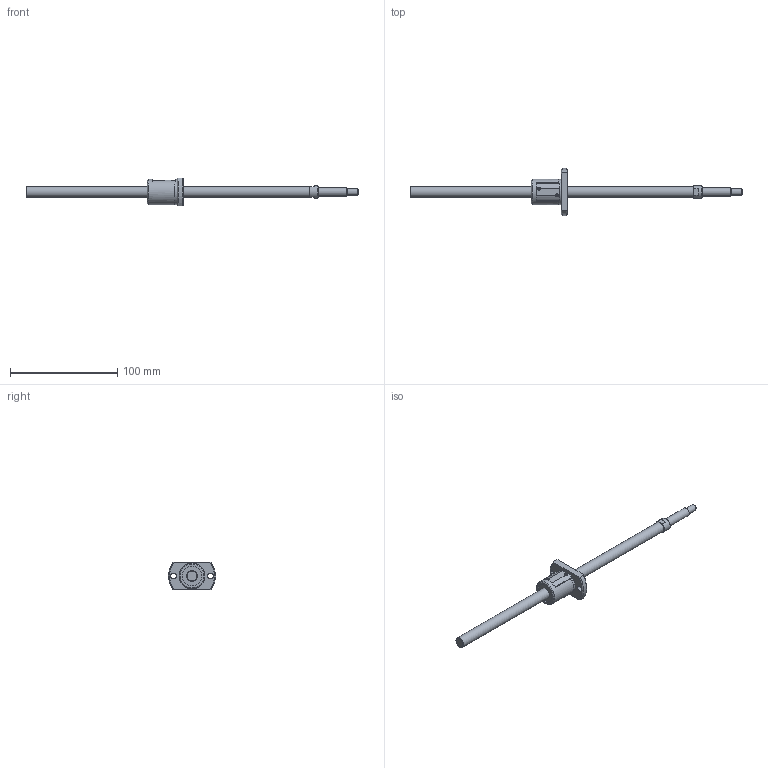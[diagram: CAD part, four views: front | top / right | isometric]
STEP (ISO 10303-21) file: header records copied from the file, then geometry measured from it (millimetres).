
FILE_DESCRIPTION(/* description */ ('STEP AP214'),/* implementation_level */ '2;1');
FILE_NAME(/* name */ 'SG1005-260R310C5A0X(113)',/* time_stamp */ '2026-07-24T15:16:24+02:00',/* author */ ('License CC BY-ND 4.0'),/* organization */ ('CADENAS'),/* preprocessor_version */ 'ST-DEVELOPER v20',/* originating_system */ 'PARTsolutions',/* authorisation */ ' ');
FILE_SCHEMA (('AUTOMOTIVE_DESIGN {1 0 10303 214 3 1 1}'));
Length unit declared in the file: millimetre
Products named in the file (3): SG1005-260R310C5A0X(113); SG1005-260R310C5A_shaft; SG1005 C5_nut
Assembly tree (2 placements, depth 2):
  SG1005-260R310C5A0X(113)
    SG1005-260R310C5A_shaft
    SG1005 C5_nut
Bounding box: 310 x 44 x 26 mm (x, y, z)
Volume: 38619 mm3; surface area: 15694 mm2
Topology: 2 solids, 2 shells, 72 faces, 177 edges, 116 vertices
Faces by surface type: plane 35, cylinder 23, cone 13, torus 1
Full cylindrical faces by diameter (mm): 5.5 x2, 6 x1, 8 x1, 10 x2, 11.5 x1, 18 x2, 23.5 x1, 24 x1
Entity records: 2057 total; most frequent: CARTESIAN_POINT 387, DIRECTION 346, ORIENTED_EDGE 292, EDGE_CURVE 146, AXIS2_PLACEMENT_3D 143, VERTEX_POINT 106, EDGE_LOOP 106, FACE_BOUND 106
